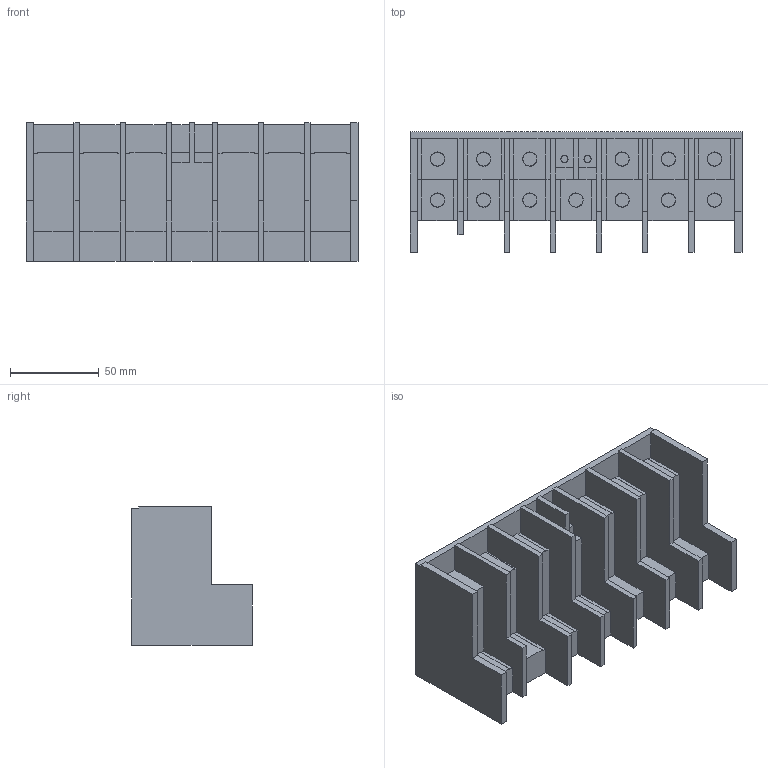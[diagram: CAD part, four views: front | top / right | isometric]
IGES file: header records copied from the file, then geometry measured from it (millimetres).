
Start section:  PTC IGES file: j3-22k-te.igs
Global section: file name: j3-22k-te.igs; native system: Pro/ENGINEER by Parametric Technology Corporation; preprocessor: 2006420; author: JE18792; organization: Unknown; date: 20101129.152517; units: millimetre
Bounding box: 187 x 68 x 78 mm (x, y, z)
Volume: 439963 mm3; surface area: 92891.2 mm2
Topology: 1 solids, 1 shells, 189 faces, 500 edges, 328 vertices
Faces by surface type: bspline 189
